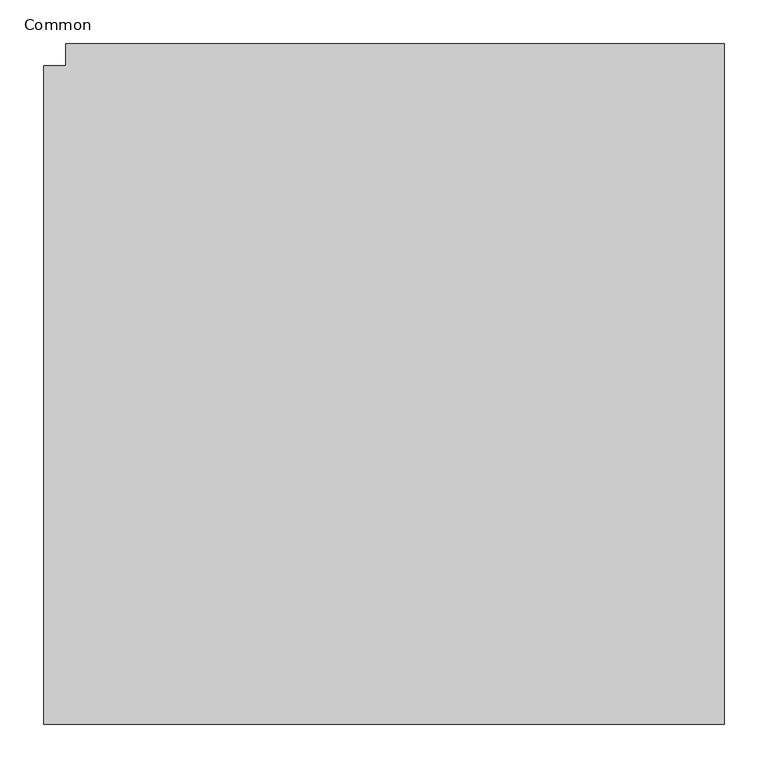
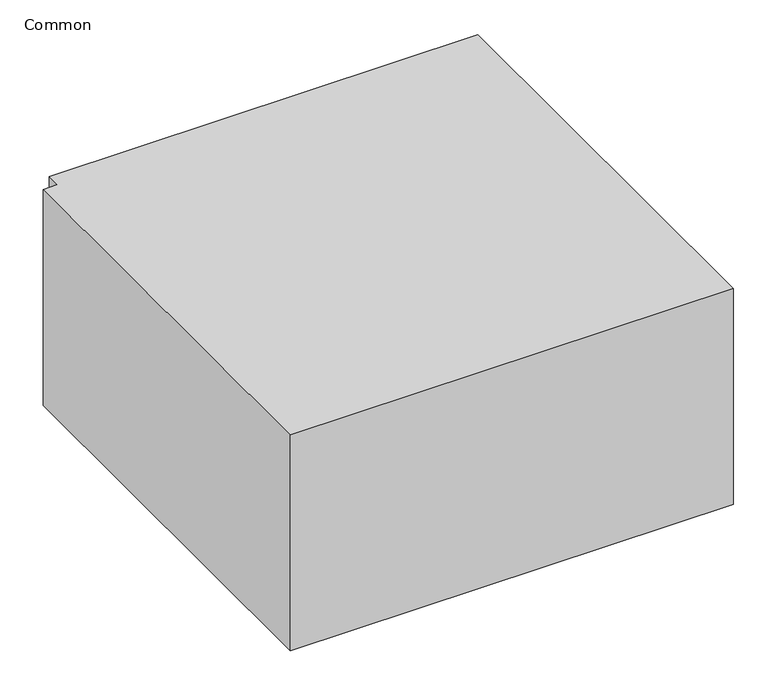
"""IFC4 building model written with IfcOpenShell, lengths in millimetres: duct fitting geometry, 014_角形分割エルボ - 一重ベーン : Common."""

from ifc_helpers import new_model, si_unit, frame, origin, place, context, project, spatial, polyline, outline, extrude, source, transform, mapped, element, save


def common_59e5cf79(model_context):
    return source(origin(), model_context, "Body", "SweptSolid", [
        extrude(outline(polyline([(-400.0, -375.0), (-400.0, 375.0), (-375.0, 375.0), (-375.0, 400.0), (375.0, 400.0), (375.0, -375.0), (-400.0, -375.0)])), frame((0.0, 0.0, -200.0), z_axis=(0.0, 0.0, 1.0), x_axis=(1.0, 0.0, 0.0)), (0.0, 0.0, 1.0), 400.0),
    ])


if __name__ == "__main__":
    model = new_model("IFC4")
    model_context = context("Model", 3, world=origin())
    ifc_project = project(units=[si_unit("LENGTHUNIT", "METRE", prefix="MILLI")], contexts=[model_context])
    site = spatial("IfcSite", under=ifc_project)
    building = spatial("IfcBuilding", under=site)
    placement = place(None, origin())
    common_shape = common_59e5cf79(model_context)
    element("IfcDuctFitting", 1, ObjectType="014_角形分割エルボ - 一重ベーン : Common", at=placement, inside=building, context=model_context, shape_type="MappedRepresentation", body=[
        mapped(common_shape, transform((0.0, 0.0, 0.0), x_axis=(1.0, 0.0, 0.0), y_axis=(0.0, 1.0, 0.0), z_axis=(0.0, 0.0, 1.0))),
    ])
    save(model, "model.ifc")
